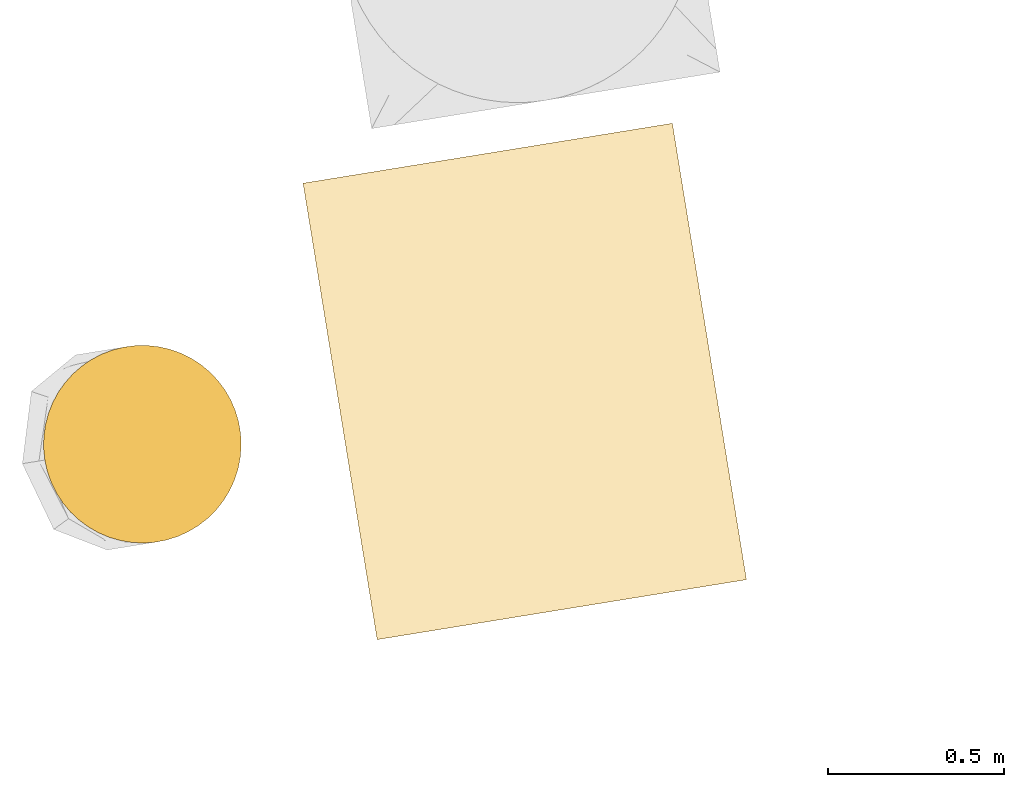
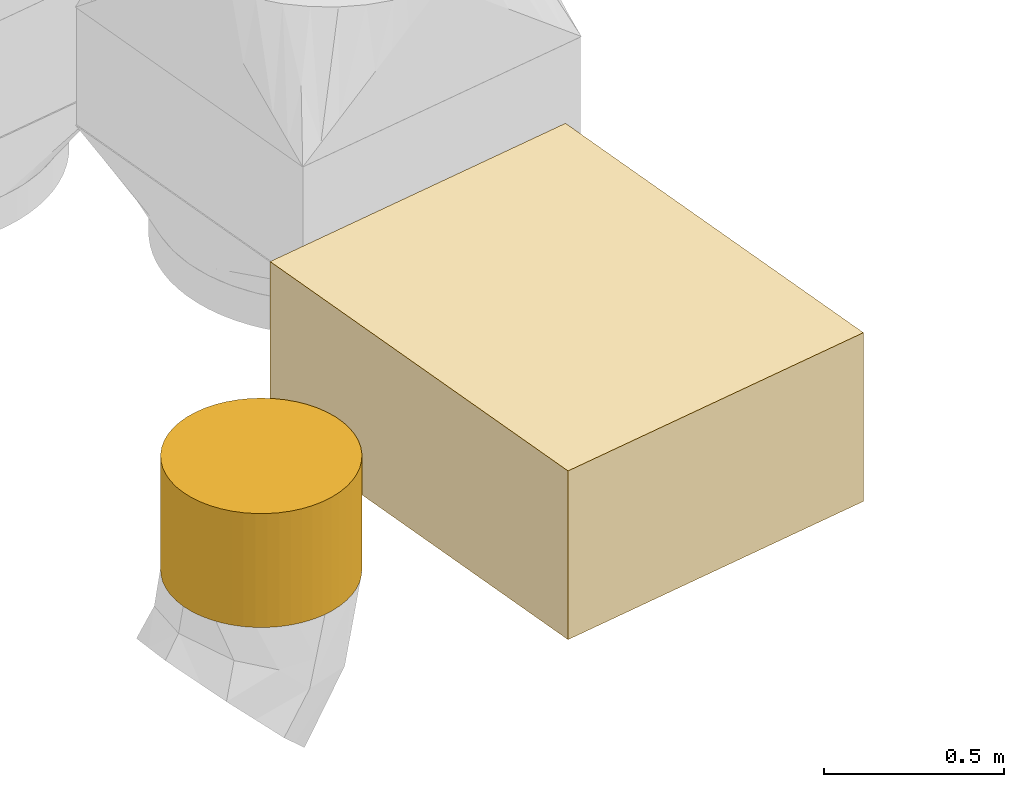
# One storey, part 1 of 6: 2 coverings.
"""IFC2X3 building model written with IfcOpenShell, lengths in millimetres."""

from ifc_helpers import new_model, entity, si_unit, converted_unit, derived_unit, direction, frame, origin, origin_with_axes, origin_2d_with_axis, place, context, subcontext, project, spatial, rectangle, circle, extrude, type_object, element, save


model = new_model("IFC2X3")

# Units and contexts
model_context = context("Model", 3, precision=0.01, world=origin(), true_north=direction((6.12323399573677e-17, 1.0)))
plan_context = context("Plan", 3, precision=1e-05, world=origin_with_axes())
body_context = subcontext(model_context, "Body", "Model", "MODEL_VIEW")
ifc_project = project(units=[converted_unit("PLANEANGLEUNIT", "DEGREE", entity("IfcPositiveLengthMeasure", 0.0174532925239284), si_unit("PLANEANGLEUNIT", "RADIAN"), dimensions=[0, 0, 0, 0, 0, 0, 0]), si_unit("AREAUNIT", "SQUARE_METRE"), si_unit("LENGTHUNIT", "METRE", prefix="MILLI"), si_unit("MASSUNIT", "GRAM", prefix="KILO"), si_unit("POWERUNIT", "WATT"), si_unit("PRESSUREUNIT", "PASCAL", prefix="KILO"), si_unit("FORCEUNIT", "NEWTON", prefix="KILO"), si_unit("ELECTRICVOLTAGEUNIT", "VOLT"), si_unit("ELECTRICCURRENTUNIT", "AMPERE"), si_unit("THERMODYNAMICTEMPERATUREUNIT", "DEGREE_CELSIUS"), si_unit("TIMEUNIT", "SECOND"), si_unit("VOLUMEUNIT", "CUBIC_METRE"), derived_unit("LINEARVELOCITYUNIT", [(si_unit("LENGTHUNIT", "METRE"), 1), (si_unit("TIMEUNIT", "SECOND"), -1)]), derived_unit("VOLUMETRICFLOWRATEUNIT", [(si_unit("VOLUMEUNIT", "CUBIC_METRE"), 1), (si_unit("TIMEUNIT", "SECOND"), -1)]), derived_unit("THERMALTRANSMITTANCEUNIT", [(si_unit("POWERUNIT", "WATT"), 1), (si_unit("THERMODYNAMICTEMPERATUREUNIT", "KELVIN"), -1), (si_unit("AREAUNIT", "SQUARE_METRE"), -1)]), derived_unit("SOUNDPRESSUREUNIT", [(si_unit("PRESSUREUNIT", "PASCAL"), 1)])], contexts=[model_context, plan_context])

# Site, building, storey
site_placement = place(None, frame((-0.00071070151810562, 0.00438415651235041, 0.0), z_axis=(0.0, 0.0, 1.0), x_axis=(-0.160236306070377, 0.987078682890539, 0.0)))
site = spatial("IfcSite", under=ifc_project, at=site_placement, Name="Default", CompositionType="ELEMENT")
building_placement = place(site_placement, origin_with_axes())
building = spatial("IfcBuilding", under=site, at=building_placement, CompositionType="ELEMENT")
storey_placement = place(building_placement, frame((0.0, 0.0, 48160.0), z_axis=(0.0, 0.0, 1.0), x_axis=(1.0, 0.0, 0.0)))
storey = spatial("IfcBuildingStorey", under=building, at=storey_placement, Name="Nivå C", CompositionType="ELEMENT", Elevation=48160.0)

# Coverings
covering_type = type_object("IfcCoveringType", Name="Duct Insulation:MuT030", PredefinedType="INSULATION")
covering_1_placement = place(storey_placement, origin_with_axes())
element("IfcCovering", 1, at=covering_1_placement, inside=storey, type_object=covering_type, Name="Duct Insulation:MuT030", ObjectType="Duct Insulation:MuT030", PredefinedType="INSULATION", context=body_context, shape_type="SweptSolid", body=[
    extrude(rectangle(XDim=1059.99999999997, YDim=1309.99999999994, at=origin_2d_with_axis()), frame((776626.452700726, -596135.086612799, 2047.35234022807), z_axis=(0.0, 0.0, 1.0), x_axis=(0.0, -1.0, 0.0)), (0.0, 0.0, 1.0), 572.645779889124),
])
covering_2_placement = place(storey_placement, origin_with_axes())
element("IfcCovering", 2, at=covering_2_placement, inside=storey, type_object=covering_type, Name="Duct Insulation:MuT030", ObjectType="Duct Insulation:MuT030", PredefinedType="INSULATION", context=body_context, shape_type="SweptSolid", body=[
    extrude(circle(Radius=280.0, at=origin_2d_with_axis()), frame((776624.566038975, -595037.180498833, 2181.70678118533), z_axis=(0.0, 0.0, 1.0), x_axis=(0.0, 1.0, 0.0)), (0.0, 0.0, 1.0), 386.543218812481),
])

save(model, "model.ifc")
